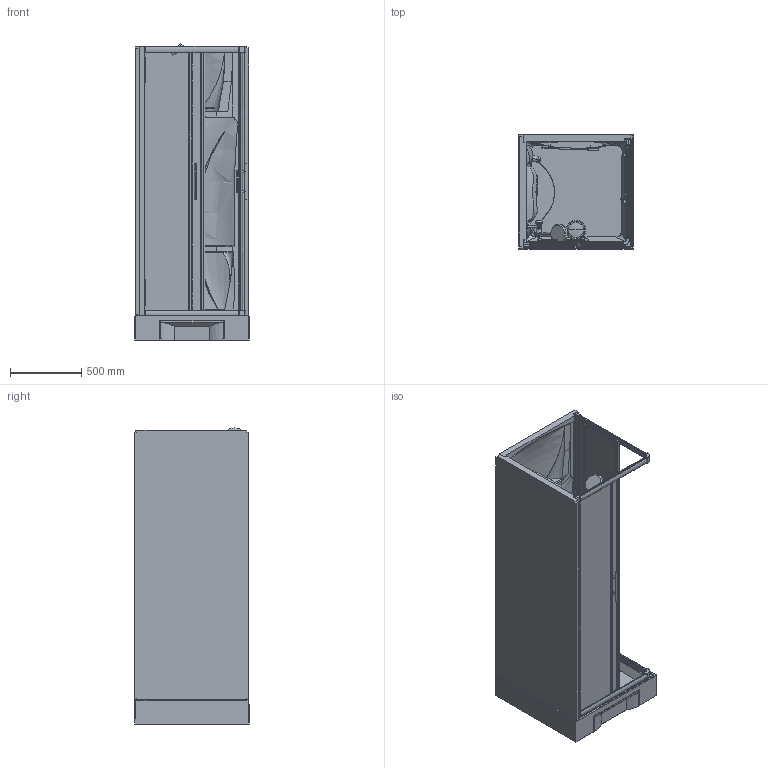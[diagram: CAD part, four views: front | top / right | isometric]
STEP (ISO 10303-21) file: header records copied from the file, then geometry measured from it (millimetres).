
FILE_DESCRIPTION(('STEP AP203'),'2;1');
FILE_NAME('NNH A 80 M 19.stp','2015-09-04T14:44:38',(''),(''),'2014.1.117','THINKDESIGN','');
FILE_SCHEMA(('CONFIG_CONTROL_DESIGN'));
Bounding box: 804.03 x 807.53 x 2080.01 mm (x, y, z)
Volume: 176256682.3 mm3; surface area: 16371549.3 mm2
Topology: 43 solids, 43 shells, 786 faces, 1869 edges, 1163 vertices
Faces by surface type: bspline 404, plane 293, cylinder 89
Entity records: 68725 total; most frequent: CARTESIAN_POINT 53229, ORIENTED_EDGE 3722, DIRECTION 2179, EDGE_CURVE 1861, VERTEX_POINT 1163, VECTOR 883, LINE 883, EDGE_LOOP 812
